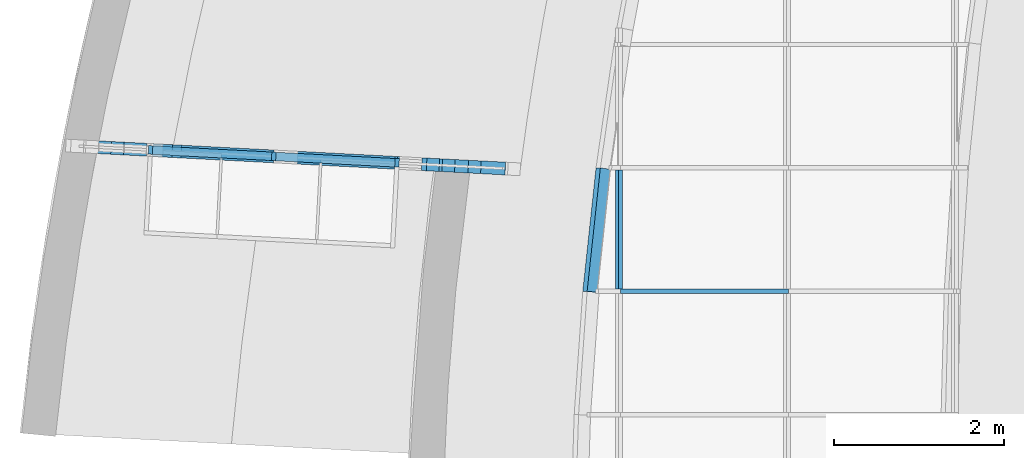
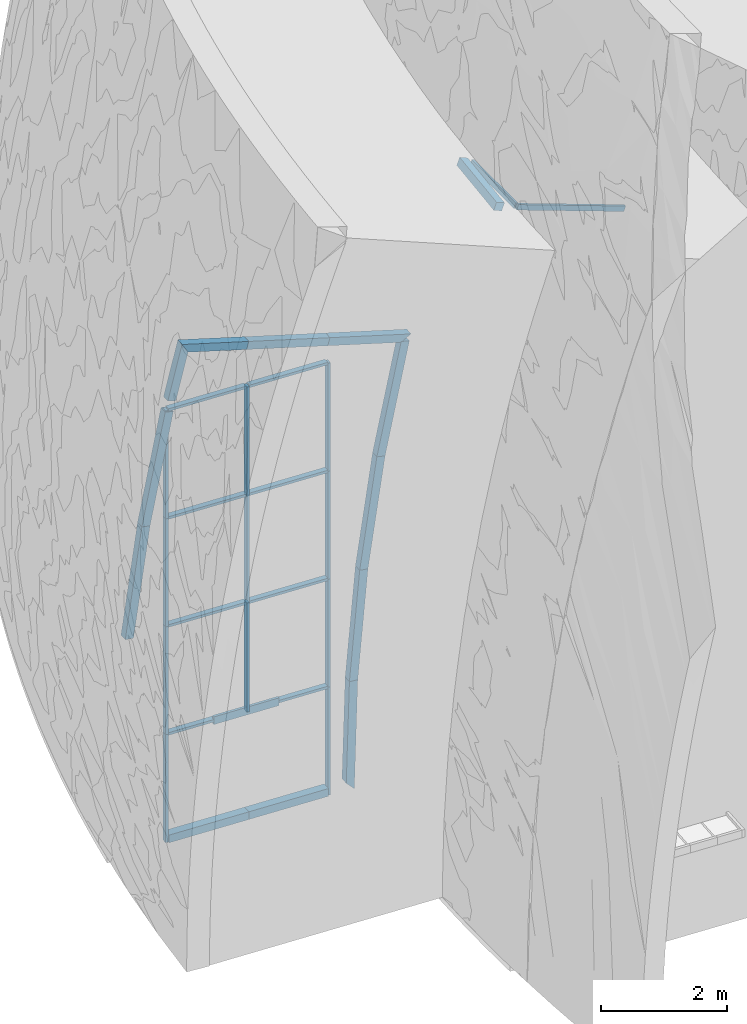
# One storey, part 9 of 82: 38 members, 3 elements without a shape of their own.
"""IFC2X3 building model written with IfcOpenShell, lengths in millimetres."""

from ifc_helpers import new_model, entity, si_unit, converted_unit, derived_unit, direction, frame, frame_2d, origin, origin_2d_with_axis, place, context, subcontext, project, spatial, rectangle, extrude, clip, halfspace, source, transform, mapped, material, type_object, type_shapes, element, aggregate, save


model = new_model("IFC2X3")

# Units and contexts
model_context = context("Model", 3, precision=0.01, world=origin(), true_north=direction((6.12303176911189e-17, 1.0)))
body_context = subcontext(model_context, "Body", "Model", "MODEL_VIEW")
ifc_project = project(units=[si_unit("LENGTHUNIT", "METRE", prefix="MILLI"), si_unit("AREAUNIT", "SQUARE_METRE"), si_unit("VOLUMEUNIT", "CUBIC_METRE"), converted_unit("PLANEANGLEUNIT", "DEGREE", entity("IfcRatioMeasure", 0.0174532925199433), si_unit("PLANEANGLEUNIT", "RADIAN"), dimensions=[0, 0, 0, 0, 0, 0, 0]), si_unit("MASSUNIT", "GRAM", prefix="KILO"), derived_unit("MASSDENSITYUNIT", [(si_unit("MASSUNIT", "GRAM", prefix="KILO"), 1), (si_unit("LENGTHUNIT", "METRE"), -3)]), si_unit("TIMEUNIT", "SECOND"), si_unit("FREQUENCYUNIT", "HERTZ"), si_unit("THERMODYNAMICTEMPERATUREUNIT", "DEGREE_CELSIUS"), derived_unit("THERMALTRANSMITTANCEUNIT", [(si_unit("MASSUNIT", "GRAM", prefix="KILO"), 1), (si_unit("THERMODYNAMICTEMPERATUREUNIT", "KELVIN"), -1), (si_unit("TIMEUNIT", "SECOND"), -3)]), derived_unit("VOLUMETRICFLOWRATEUNIT", [(si_unit("LENGTHUNIT", "METRE"), 3), (si_unit("TIMEUNIT", "SECOND"), -1)]), si_unit("ELECTRICCURRENTUNIT", "AMPERE"), si_unit("ELECTRICVOLTAGEUNIT", "VOLT"), si_unit("POWERUNIT", "WATT"), si_unit("FORCEUNIT", "NEWTON", prefix="KILO"), si_unit("ILLUMINANCEUNIT", "LUX"), si_unit("LUMINOUSFLUXUNIT", "LUMEN"), si_unit("LUMINOUSINTENSITYUNIT", "CANDELA"), derived_unit("USERDEFINED", [(si_unit("MASSUNIT", "GRAM", prefix="KILO"), -1), (si_unit("LENGTHUNIT", "METRE"), -2), (si_unit("TIMEUNIT", "SECOND"), 3), (si_unit("LUMINOUSFLUXUNIT", "LUMEN"), 1)]), derived_unit("LINEARVELOCITYUNIT", [(si_unit("LENGTHUNIT", "METRE"), 1), (si_unit("TIMEUNIT", "SECOND"), -1)]), si_unit("PRESSUREUNIT", "PASCAL"), derived_unit("USERDEFINED", [(si_unit("LENGTHUNIT", "METRE"), -2), (si_unit("MASSUNIT", "GRAM", prefix="KILO"), 1), (si_unit("TIMEUNIT", "SECOND"), -2)])], contexts=[model_context])

# Site, building, storey
site_placement = place(None, origin())
site = spatial("IfcSite", under=ifc_project, at=site_placement, Name="表面", CompositionType="ELEMENT")
building_placement = place(site_placement, origin())
building = spatial("IfcBuilding", under=site, at=building_placement, CompositionType="ELEMENT")
storey_placement = place(building_placement, origin())
storey = spatial("IfcBuildingStorey", under=building, at=storey_placement, Name="1F", CompositionType="ELEMENT", Elevation=0.0)

# Curtain wall, members
curtain_wall_type_1 = type_object("IfcCurtainWallType", Name="幕墙系统:1450 x 2100mm", PredefinedType="NOTDEFINED")
curtain_wall_1_placement = place(storey_placement, origin())
curtain_wall_1 = element("IfcCurtainWall", 1, at=curtain_wall_1_placement, inside=storey, type_object=curtain_wall_type_1, Name="幕墙系统:1450 x 2100mm", ObjectType="幕墙系统:1450 x 2100mm")
ifc_material_1 = material(Name="木质 - 木材")
member_type_1 = type_object("IfcMemberType", Name="200 x 150mm", PredefinedType="MEMBER")
shared_shape_1 = source(origin(), body_context, "Body", "Clipping", [
    clip(extrude(rectangle(XDim=150.0, YDim=150.0, at=origin_2d_with_axis()), frame((-75.0, 0.0, -1501.012738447), z_axis=(0.0, 0.0, 1.0), x_axis=(0.0, -1.0, 0.0)), (0.0, 0.0, 1.0), 1501.012738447), halfspace(frame((0.0, -304.8, 0.0), z_axis=(-0.697609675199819, 0.0, 0.716478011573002), x_axis=(-0.716478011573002, 0.0, -0.697609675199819)), False)),
])
type_shapes(member_type_1, [shared_shape_1])
placement_1 = place(building_placement, frame((0.0, 0.0, 6000.0)))
member_1_placement = place(placement_1, frame((-39888.9335743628, -14514.5203853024, 2524.03431529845), z_axis=(0.964690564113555, -0.0505572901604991, -0.258488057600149), x_axis=(0.258133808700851, -0.0135282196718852, 0.966014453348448)))
member_1 = element("IfcMember", 2, at=member_1_placement, type_object=member_type_1, material=ifc_material_1, Name="矩形竖梃:200 x 150mm", ObjectType="200 x 150mm", context=body_context, shape_type="MappedRepresentation", body=[
    mapped(shared_shape_1, transform((0.0, 0.0, 0.0), scale=1.0)),
])
member_type_2 = type_object("IfcMemberType", Name="200 x 150mm", PredefinedType="MEMBER")
shared_shape_2 = source(origin(), body_context, "Body", "SweptSolid", [
    extrude(rectangle(XDim=150.0, YDim=150.0, at=frame_2d((7.105427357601e-15, 0.0), x_axis=(1.0, 0.0))), frame((-75.0, 0.0, -1501.01273844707), z_axis=(0.0, 0.0, 1.0), x_axis=(0.0, -1.0, 0.0)), (0.0, 0.0, 1.0), 1501.01273844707),
])
type_shapes(member_type_2, [shared_shape_2])
member_2_placement = place(placement_1, frame((-41336.9463997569, -14438.6332487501, 2912.02818249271), z_axis=(0.964690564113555, -0.0505572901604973, -0.258488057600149), x_axis=(0.258133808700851, -0.0135282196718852, 0.966014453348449)))
member_2 = element("IfcMember", 3, at=member_2_placement, type_object=member_type_2, material=ifc_material_1, Name="矩形竖梃:200 x 150mm", ObjectType="200 x 150mm", context=body_context, shape_type="MappedRepresentation", body=[
    mapped(shared_shape_2, transform((0.0, 0.0, 0.0), scale=1.0)),
])
member_type_3 = type_object("IfcMemberType", Name="200 x 150mm", PredefinedType="MEMBER")
shared_shape_3 = source(origin(), body_context, "Body", "Clipping", [
    clip(clip(extrude(rectangle(XDim=150.0, YDim=150.0, at=origin_2d_with_axis()), frame((-75.0, 0.0, -2105.21667138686), z_axis=(0.0, 0.0, 1.0), x_axis=(0.0, -1.0, 0.0)), (0.0, 0.0, 1.0), 2105.21667138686), halfspace(frame((0.0, 304.799999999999, -2100.87610263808), z_axis=(0.0289250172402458, 0.0, -0.999581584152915), x_axis=(0.999581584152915, 0.0, 0.0289250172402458)), False)), halfspace(frame((0.0, -304.8, 0.0), z_axis=(-0.6968225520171, 0.0, 0.717243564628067), x_axis=(-0.717243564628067, 0.0, -0.6968225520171)), False)),
])
type_shapes(member_type_3, [shared_shape_3])
member_3_placement = place(storey_placement, frame((-40900.3472049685, -14461.5144429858, 0.0), z_axis=(-0.0288370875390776, 0.00151128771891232, -0.999582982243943), x_axis=(0.998213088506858, -0.0523141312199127, -0.0288766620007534)))
member_3 = element("IfcMember", 4, at=member_3_placement, type_object=member_type_3, material=ifc_material_1, Name="矩形竖梃:200 x 150mm", ObjectType="200 x 150mm", context=body_context, shape_type="MappedRepresentation", body=[
    mapped(shared_shape_3, transform((0.0, 0.0, 0.0), scale=1.0)),
])
member_type_4 = type_object("IfcMemberType", Name="200 x 150mm", PredefinedType="MEMBER")
shared_shape_4 = source(origin(), body_context, "Body", "Clipping", [
    clip(clip(extrude(rectangle(XDim=150.0, YDim=150.0, at=frame_2d((-1.4210854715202e-14, 0.0), x_axis=(1.0, 0.0))), frame((-75.0, 0.0, -2112.28725987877), z_axis=(0.0, 0.0, 1.0), x_axis=(0.0, -1.0, 0.0)), (0.0, 0.0, 1.0), 2116.62782862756), halfspace(frame((0.0, 304.800000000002, -2107.92463753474), z_axis=(0.0290718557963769, 0.0, -0.999577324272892), x_axis=(0.999577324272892, 0.0, 0.0290718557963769)), False)), halfspace(frame((0.0, 304.8, 0.0), z_axis=(0.0289250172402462, 0.0, 0.999581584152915), x_axis=(0.999581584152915, 0.0, -0.0289250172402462)), False)),
])
type_shapes(member_type_4, [shared_shape_4])
member_4_placement = place(storey_placement, frame((-40839.764056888, -14464.6894712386, 2100.0), z_axis=(-0.0865113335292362, 0.00453386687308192, -0.996240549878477), x_axis=(0.994875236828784, -0.0521392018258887, -0.0866300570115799)))
member_4 = element("IfcMember", 5, at=member_4_placement, type_object=member_type_4, material=ifc_material_1, Name="矩形竖梃:200 x 150mm", ObjectType="200 x 150mm", context=body_context, shape_type="MappedRepresentation", body=[
    mapped(shared_shape_4, transform((0.0, 0.0, 0.0), scale=1.0)),
])
member_type_5 = type_object("IfcMemberType", Name="200 x 150mm", PredefinedType="MEMBER")
shared_shape_5 = source(origin(), body_context, "Body", "Clipping", [
    clip(clip(extrude(rectangle(XDim=150.0, YDim=150.0, at=origin_2d_with_axis()), frame((-75.0, 0.0, -2126.63758342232), z_axis=(0.0, 0.0, 1.0), x_axis=(0.0, -1.0, 0.0)), (0.0, 0.0, 1.0), 2131.00020576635), halfspace(frame((0.0, 304.8, -2122.23745126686), z_axis=(0.0293216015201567, 0.0, -0.99957002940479), x_axis=(0.99957002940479, 0.0, 0.0293216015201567)), False)), halfspace(frame((0.0, 304.799999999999, 0.0), z_axis=(0.0290718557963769, 0.0, 0.999577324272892), x_axis=(0.999577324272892, 0.0, -0.0290718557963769)), False)),
])
type_shapes(member_type_5, [shared_shape_5])
placement_2 = place(building_placement, frame((0.0, 0.0, 3000.0)))
member_5_placement = place(placement_2, frame((-40657.4046855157, -14474.2465209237, 1200.0), z_axis=(-0.144186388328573, 0.00755648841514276, -0.989521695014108), x_axis=(0.988165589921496, -0.0517875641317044, -0.14438426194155)))
member_5 = element("IfcMember", 6, at=member_5_placement, type_object=member_type_5, material=ifc_material_1, Name="矩形竖梃:200 x 150mm", ObjectType="200 x 150mm", context=body_context, shape_type="MappedRepresentation", body=[
    mapped(shared_shape_5, transform((0.0, 0.0, 0.0), scale=1.0)),
])
member_type_6 = type_object("IfcMemberType", Name="200 x 150mm", PredefinedType="MEMBER")
shared_shape_6 = source(origin(), body_context, "Body", "Clipping", [
    clip(clip(extrude(rectangle(XDim=150.0, YDim=150.0, at=frame_2d((0.0, 7.105427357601e-14), x_axis=(1.0, 0.0))), frame((-75.0, 0.0, -2146.6071573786), z_axis=(0.0, 0.0, 1.0), x_axis=(0.0, -1.0, 0.0)), (0.0, 0.0, 1.0), 2151.00728953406), halfspace(frame((0.0, 304.799999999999, -2144.26473231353), z_axis=(0.0156142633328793, 0.0, -0.999878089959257), x_axis=(0.999878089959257, 0.0, 0.0156142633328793)), False)), halfspace(frame((0.0, 304.799999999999, 0.0), z_axis=(0.0293216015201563, 0.0, 0.99957002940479), x_axis=(0.99957002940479, 0.0, -0.0293216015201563)), False)),
])
type_shapes(member_type_6, [shared_shape_6])
member_6_placement = place(placement_1, frame((-40351.4069322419, -14490.2831836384, 300.0), z_axis=(-0.201862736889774, 0.0105791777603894, -0.979356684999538), x_axis=(0.97801451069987, -0.0512555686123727, -0.202139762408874)))
member_6 = element("IfcMember", 7, at=member_6_placement, type_object=member_type_6, material=ifc_material_1, Name="矩形竖梃:200 x 150mm", ObjectType="200 x 150mm", context=body_context, shape_type="MappedRepresentation", body=[
    mapped(shared_shape_6, transform((0.0, 0.0, 0.0), scale=1.0)),
])
member_type_7 = type_object("IfcMemberType", Name="200 x 150mm", PredefinedType="MEMBER")
shared_shape_7 = source(origin(), body_context, "Body", "Clipping", [
    clip(clip(extrude(rectangle(XDim=150.0, YDim=150.0, at=origin_2d_with_axis()), frame((-75.0, 0.0, -1054.0497524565), z_axis=(0.0, 0.0, 1.0), x_axis=(0.0, -1.0, 0.0)), (0.0, 0.0, 1.0), 1054.0497524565), halfspace(frame((0.0, -304.800000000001, -1054.0497524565), z_axis=(-0.00835370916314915, 0.0, -0.999965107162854), x_axis=(-0.999965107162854, 0.0, 0.00835370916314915)), False)), halfspace(frame((0.0, -304.8, 0.0), z_axis=(-0.713002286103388, 0.0, 0.701161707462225), x_axis=(-0.701161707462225, 0.0, -0.713002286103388)), False)),
])
type_shapes(member_type_7, [shared_shape_7])
member_7_placement = place(placement_1, frame((-43977.9506808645, -14300.2240793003, 3619.68314682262), z_axis=(0.241944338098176, -0.0126797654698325, 0.970207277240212), x_axis=(-0.968877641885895, 0.0507767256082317, 0.242276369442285)))
member_7 = element("IfcMember", 8, at=member_7_placement, type_object=member_type_7, material=ifc_material_1, Name="矩形竖梃:200 x 150mm", ObjectType="200 x 150mm", context=body_context, shape_type="MappedRepresentation", body=[
    mapped(shared_shape_7, transform((0.0, 0.0, 0.0), scale=1.0)),
])
member_type_8 = type_object("IfcMemberType", Name="200 x 150mm", PredefinedType="MEMBER")
shared_shape_8 = source(origin(), body_context, "Body", "Clipping", [
    clip(clip(extrude(rectangle(XDim=150.0, YDim=150.0, at=origin_2d_with_axis()), frame((-75.0, 0.0, -2120.79330024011), z_axis=(0.0, 0.0, 1.0), x_axis=(0.0, -1.0, 0.0)), (0.0, 0.0, 1.0), 2120.79330024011), halfspace(frame((0.0, -304.799999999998, -2120.79330024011), z_axis=(-0.0281141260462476, 0.0, -0.999604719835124), x_axis=(-0.999604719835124, 0.0, 0.0281141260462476)), False)), halfspace(frame((0.0, -304.8, 0.0), z_axis=(-0.0283397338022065, 0.0, 0.99959834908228), x_axis=(-0.99959834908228, 0.0, -0.0283397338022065)), False)),
])
type_shapes(member_type_8, [shared_shape_8])
member_8_placement = place(placement_2, frame((-44696.8288149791, -14262.5492727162, 3300.0), z_axis=(0.139496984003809, -0.00731072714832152, 0.990195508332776), x_axis=(-0.988838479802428, 0.051822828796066, 0.139688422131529)))
member_8 = element("IfcMember", 9, at=member_8_placement, type_object=member_type_8, material=ifc_material_1, Name="矩形竖梃:200 x 150mm", ObjectType="200 x 150mm", context=body_context, shape_type="MappedRepresentation", body=[
    mapped(shared_shape_8, transform((0.0, 0.0, 0.0), scale=1.0)),
])
member_type_9 = type_object("IfcMemberType", Name="200 x 150mm", PredefinedType="MEMBER")
shared_shape_9 = source(origin(), body_context, "Body", "Clipping", [
    clip(clip(extrude(rectangle(XDim=150.0, YDim=150.0, at=origin_2d_with_axis()), frame((-75.0, 0.0, -2141.34794980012), z_axis=(0.0, 0.0, 1.0), x_axis=(0.0, -1.0, 0.0)), (0.0, 0.0, 1.0), 2141.34794980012), halfspace(frame((0.0, -304.8, -2141.34794980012), z_axis=(-0.0283397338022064, 0.0, -0.99959834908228), x_axis=(-0.99959834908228, 0.0, 0.0283397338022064)), False)), halfspace(frame((0.0, -304.8, 0.0), z_axis=(-0.0155843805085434, 0.0, 0.99987855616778), x_axis=(-0.99987855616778, 0.0, -0.0155843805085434)), False)),
])
type_shapes(member_type_9, [shared_shape_9])
member_9_placement = place(placement_1, frame((-44278.6294705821, -14284.4661716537, 2400.0), z_axis=(0.195297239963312, -0.0102350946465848, 0.980690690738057), x_axis=(-0.979346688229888, 0.0513253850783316, 0.195565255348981)))
member_9 = element("IfcMember", 10, at=member_9_placement, type_object=member_type_9, material=ifc_material_1, Name="矩形竖梃:200 x 150mm", ObjectType="200 x 150mm", context=body_context, shape_type="MappedRepresentation", body=[
    mapped(shared_shape_9, transform((0.0, 0.0, 0.0), scale=1.0)),
])
ifc_material_2 = material(Name="金属 - 铝")
member_type_10 = type_object("IfcMemberType", Name="50 x 100mm", PredefinedType="MEMBER")
shared_shape_10 = source(origin(), body_context, "Body", "SweptSolid", [
    extrude(rectangle(XDim=100.0, YDim=50.0, at=origin_2d_with_axis()), frame((0.0, 0.0, -1400.0), z_axis=(0.0, 0.0, 1.0), x_axis=(0.0, -1.0, 0.0)), (0.0, 0.0, 1.0), 1400.0),
])
type_shapes(member_type_10, [shared_shape_10])
member_10_placement = place(storey_placement, frame((-41361.9121381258, -14437.3248498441, 2100.0), z_axis=(0.998629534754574, -0.052335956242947, 0.0), x_axis=(0.0, 0.0, 1.0)))
member_10 = element("IfcMember", 11, at=member_10_placement, type_object=member_type_10, material=ifc_material_2, Name="矩形竖梃:50 x 100mm", ObjectType="50 x 100mm", context=body_context, shape_type="MappedRepresentation", body=[
    mapped(shared_shape_10, transform((0.0, 0.0, 0.0), scale=1.0)),
])
member_11_placement = place(placement_1, frame((-41361.9121381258, -14437.3248498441, 300.0), z_axis=(0.998629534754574, -0.052335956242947, 0.0), x_axis=(0.0, 0.0, 1.0)))
member_11 = element("IfcMember", 12, at=member_11_placement, type_object=member_type_10, material=ifc_material_2, Name="矩形竖梃:50 x 100mm", ObjectType="50 x 100mm", context=body_context, shape_type="MappedRepresentation", body=[
    mapped(shared_shape_10, transform((0.0, 0.0, 0.0), scale=1.0)),
])
member_12_placement = place(placement_1, frame((-41361.9121381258, -14437.3248498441, 2400.0), z_axis=(0.998629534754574, -0.0523359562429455, 0.0), x_axis=(0.0, 0.0, 1.0)))
member_12 = element("IfcMember", 13, at=member_12_placement, type_object=member_type_10, material=ifc_material_2, Name="矩形竖梃:50 x 100mm", ObjectType="50 x 100mm", context=body_context, shape_type="MappedRepresentation", body=[
    mapped(shared_shape_10, transform((0.0, 0.0, 0.0), scale=1.0)),
])
member_13_placement = place(storey_placement, frame((-42809.9249635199, -14361.4377132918, 2100.0), z_axis=(0.998629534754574, -0.0523359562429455, 0.0), x_axis=(0.0, 0.0, 1.0)))
member_13 = element("IfcMember", 14, at=member_13_placement, type_object=member_type_10, material=ifc_material_2, Name="矩形竖梃:50 x 100mm", ObjectType="50 x 100mm", context=body_context, shape_type="MappedRepresentation", body=[
    mapped(shared_shape_10, transform((0.0, 0.0, 0.0), scale=1.0)),
])
member_14_placement = place(placement_1, frame((-42809.9249635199, -14361.4377132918, 300.0), z_axis=(0.998629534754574, -0.0523359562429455, 0.0), x_axis=(0.0, 0.0, 1.0)))
member_14 = element("IfcMember", 15, at=member_14_placement, type_object=member_type_10, material=ifc_material_2, Name="矩形竖梃:50 x 100mm", ObjectType="50 x 100mm", context=body_context, shape_type="MappedRepresentation", body=[
    mapped(shared_shape_10, transform((0.0, 0.0, 0.0), scale=1.0)),
])
member_15_placement = place(placement_1, frame((-42809.9249635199, -14361.4377132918, 2400.0), z_axis=(0.998629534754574, -0.052335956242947, 0.0), x_axis=(0.0, 0.0, 1.0)))
member_15 = element("IfcMember", 16, at=member_15_placement, type_object=member_type_10, material=ifc_material_2, Name="矩形竖梃:50 x 100mm", ObjectType="50 x 100mm", context=body_context, shape_type="MappedRepresentation", body=[
    mapped(shared_shape_10, transform((0.0, 0.0, 0.0), scale=1.0)),
])
member_16_placement = place(placement_2, frame((-42809.9249635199, -14361.4377132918, 1200.0), z_axis=(0.998629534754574, -0.0523359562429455, 0.0), x_axis=(0.0, 0.0, 1.0)))
member_16 = element("IfcMember", 17, at=member_16_placement, type_object=member_type_10, material=ifc_material_2, Name="矩形竖梃:50 x 100mm", ObjectType="50 x 100mm", context=body_context, shape_type="MappedRepresentation", body=[
    mapped(shared_shape_10, transform((0.0, 0.0, 0.0), scale=1.0)),
])
member_17_placement = place(placement_2, frame((-41361.9121381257, -14437.3248498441, 1200.0), z_axis=(0.998629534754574, -0.052335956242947, 0.0), x_axis=(0.0, 0.0, 1.0)))
member_17 = element("IfcMember", 18, at=member_17_placement, type_object=member_type_10, material=ifc_material_2, Name="矩形竖梃:50 x 100mm", ObjectType="50 x 100mm", context=body_context, shape_type="MappedRepresentation", body=[
    mapped(shared_shape_10, transform((0.0, 0.0, 0.0), scale=1.0)),
])

# Curtain wall, member
curtain_wall_2_placement = place(storey_placement, origin())
curtain_wall_2 = element("IfcCurtainWall", 19, at=curtain_wall_2_placement, inside=storey, type_object=curtain_wall_type_1, Name="幕墙系统:1450 x 2100mm", ObjectType="幕墙系统:1450 x 2100mm")
placement_3 = place(building_placement, frame((0.0, 0.0, 9000.0)))
member_18_placement = place(placement_3, frame((-38729.9799238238, -14521.8767198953, 2416.82813591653), z_axis=(0.0, 1.0, 0.0), x_axis=(-0.93969262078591, 0.0, 0.342020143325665)))
member_18 = element("IfcMember", 20, at=member_18_placement, type_object=member_type_10, material=ifc_material_2, Name="矩形竖梃:50 x 100mm", ObjectType="50 x 100mm", context=body_context, shape_type="MappedRepresentation", body=[
    mapped(shared_shape_10, transform((0.0, 0.0, 0.0), scale=1.0)),
])

# Member
member_type_11 = type_object("IfcMemberType", Name="50 x 100mm", PredefinedType="MEMBER")
shared_shape_11 = source(origin(), body_context, "Body", "SweptSolid", [
    extrude(rectangle(XDim=100.0, YDim=50.0, at=origin_2d_with_axis()), frame((0.0, 0.0, -2100.0), z_axis=(0.0, 0.0, 1.0), x_axis=(0.0, -1.0, 0.0)), (0.0, 0.0, 1.0), 2100.0),
])
type_shapes(member_type_11, [shared_shape_11])
member_19_placement = place(storey_placement, frame((-41336.9463997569, -14438.6332487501, 2100.0), z_axis=(0.0, 0.0, 1.0), x_axis=(-0.998629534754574, 0.0523359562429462, 0.0)))
member_19 = element("IfcMember", 21, at=member_19_placement, type_object=member_type_11, material=ifc_material_2, Name="矩形竖梃:50 x 100mm", ObjectType="50 x 100mm", context=body_context, shape_type="MappedRepresentation", body=[
    mapped(shared_shape_11, transform((0.0, 0.0, 0.0), scale=1.0)),
])

member_20_placement = place(storey_placement, frame((-44232.9720505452, -14286.8589756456, 2100.0), z_axis=(0.0, 0.0, 1.0), x_axis=(-0.998629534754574, 0.0523359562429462, 0.0)))
member_20 = element("IfcMember", 22, at=member_20_placement, type_object=member_type_11, material=ifc_material_2, Name="矩形竖梃:50 x 100mm", ObjectType="50 x 100mm", context=body_context, shape_type="MappedRepresentation", body=[
    mapped(shared_shape_11, transform((0.0, 0.0, 0.0), scale=1.0)),
])

member_type_12 = type_object("IfcMemberType", Name="50 x 100mm", PredefinedType="MEMBER")
shared_shape_12 = source(origin(), body_context, "Body", "SweptSolid", [
    extrude(rectangle(XDim=100.0, YDim=50.0, at=origin_2d_with_axis()), frame((0.0, 0.0, -2100.0), z_axis=(0.0, 0.0, 1.0), x_axis=(0.0, -1.0, 0.0)), (0.0, 0.0, 1.0), 2100.0),
])
type_shapes(member_type_12, [shared_shape_12])
member_21_placement = place(storey_placement, frame((-41336.9463997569, -14438.6332487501, 4200.0), z_axis=(0.0, 0.0, 1.0), x_axis=(-0.998629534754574, 0.0523359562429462, 0.0)))
member_21 = element("IfcMember", 23, at=member_21_placement, type_object=member_type_12, material=ifc_material_2, Name="矩形竖梃:50 x 100mm", ObjectType="50 x 100mm", context=body_context, shape_type="MappedRepresentation", body=[
    mapped(shared_shape_12, transform((0.0, 0.0, 0.0), scale=1.0)),
])

member_22_placement = place(placement_2, frame((-41336.9463997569, -14438.6332487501, 3300.0), z_axis=(0.0, 0.0, 1.0), x_axis=(-0.998629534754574, 0.0523359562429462, 0.0)))
member_22 = element("IfcMember", 24, at=member_22_placement, type_object=member_type_12, material=ifc_material_2, Name="矩形竖梃:50 x 100mm", ObjectType="50 x 100mm", context=body_context, shape_type="MappedRepresentation", body=[
    mapped(shared_shape_12, transform((0.0, 0.0, 0.0), scale=1.0)),
])

member_23_placement = place(placement_1, frame((-41336.9463997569, -14438.6332487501, 2400.0), z_axis=(0.0, 0.0, 1.0), x_axis=(-0.998629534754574, 0.0523359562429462, 0.0)))
member_23 = element("IfcMember", 25, at=member_23_placement, type_object=member_type_12, material=ifc_material_2, Name="矩形竖梃:50 x 100mm", ObjectType="50 x 100mm", context=body_context, shape_type="MappedRepresentation", body=[
    mapped(shared_shape_12, transform((0.0, 0.0, 0.0), scale=1.0)),
])

member_24_placement = place(storey_placement, frame((-44232.9720505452, -14286.8589756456, 4200.0), z_axis=(0.0, 0.0, 1.0), x_axis=(-0.998629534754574, 0.0523359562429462, 0.0)))
member_24 = element("IfcMember", 26, at=member_24_placement, type_object=member_type_12, material=ifc_material_2, Name="矩形竖梃:50 x 100mm", ObjectType="50 x 100mm", context=body_context, shape_type="MappedRepresentation", body=[
    mapped(shared_shape_12, transform((0.0, 0.0, 0.0), scale=1.0)),
])

member_25_placement = place(placement_2, frame((-44232.9720505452, -14286.8589756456, 3300.0), z_axis=(0.0, 0.0, 1.0), x_axis=(-0.998629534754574, 0.0523359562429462, 0.0)))
member_25 = element("IfcMember", 27, at=member_25_placement, type_object=member_type_12, material=ifc_material_2, Name="矩形竖梃:50 x 100mm", ObjectType="50 x 100mm", context=body_context, shape_type="MappedRepresentation", body=[
    mapped(shared_shape_12, transform((0.0, 0.0, 0.0), scale=1.0)),
])

member_26_placement = place(placement_1, frame((-44232.9720505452, -14286.8589756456, 2400.0), z_axis=(0.0, 0.0, 1.0), x_axis=(-0.998629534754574, 0.0523359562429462, 0.0)))
member_26 = element("IfcMember", 28, at=member_26_placement, type_object=member_type_12, material=ifc_material_2, Name="矩形竖梃:50 x 100mm", ObjectType="50 x 100mm", context=body_context, shape_type="MappedRepresentation", body=[
    mapped(shared_shape_12, transform((0.0, 0.0, 0.0), scale=1.0)),
])

member_27_placement = place(placement_1, frame((-42784.959225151, -14362.7461121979, 2400.0), z_axis=(0.0, 0.0, 1.0), x_axis=(-0.998629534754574, 0.0523359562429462, 0.0)))
member_27 = element("IfcMember", 29, at=member_27_placement, type_object=member_type_12, material=ifc_material_2, Name="矩形竖梃:50 x 100mm", ObjectType="50 x 100mm", context=body_context, shape_type="MappedRepresentation", body=[
    mapped(shared_shape_12, transform((0.0, 0.0, 0.0), scale=1.0)),
])

member_28_placement = place(placement_2, frame((-42784.959225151, -14362.7461121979, 3300.0), z_axis=(0.0, 0.0, 1.0), x_axis=(-0.998629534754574, 0.0523359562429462, 0.0)))
member_28 = element("IfcMember", 30, at=member_28_placement, type_object=member_type_12, material=ifc_material_2, Name="矩形竖梃:50 x 100mm", ObjectType="50 x 100mm", context=body_context, shape_type="MappedRepresentation", body=[
    mapped(shared_shape_12, transform((0.0, 0.0, 0.0), scale=1.0)),
])

member_29_placement = place(placement_3, frame((-38729.9799238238, -15946.8767198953, 2416.82813591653), z_axis=(-0.939692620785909, 0.0, 0.342020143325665), x_axis=(0.0, -1.0, 0.0)))
member_29 = element("IfcMember", 31, at=member_29_placement, type_object=member_type_12, material=ifc_material_2, Name="矩形竖梃:50 x 100mm", ObjectType="50 x 100mm", context=body_context, shape_type="MappedRepresentation", body=[
    mapped(shared_shape_12, transform((0.0, 0.0, 0.0), scale=1.0)),
])

member_type_13 = type_object("IfcMemberType", Name="200 x 150mm", PredefinedType="MEMBER")
shared_shape_13 = source(origin(), body_context, "Body", "SweptSolid", [
    extrude(rectangle(XDim=150.0, YDim=150.0, at=origin_2d_with_axis()), frame((-75.0, 0.0, -1425.0), z_axis=(0.0, 0.0, 1.0), x_axis=(0.0, -1.0, 0.0)), (0.0, 0.0, 1.0), 1425.0),
])
type_shapes(member_type_13, [shared_shape_13])
member_30_placement = place(storey_placement, frame((-44208.0063121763, -14288.1673745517, 0.0), z_axis=(-0.998629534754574, 0.052335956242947, 0.0), x_axis=(0.0, 0.0, -1.0)))
member_30 = element("IfcMember", 32, at=member_30_placement, type_object=member_type_13, material=ifc_material_1, Name="矩形竖梃:200 x 150mm", ObjectType="200 x 150mm", context=body_context, shape_type="MappedRepresentation", body=[
    mapped(shared_shape_13, transform((0.0, 0.0, 0.0), scale=1.0)),
])

member_type_14 = type_object("IfcMemberType", Name="200 x 150mm", PredefinedType="MEMBER")
shared_shape_14 = source(origin(), body_context, "Body", "Clipping", [
    clip(extrude(rectangle(XDim=150.0, YDim=150.0, at=frame_2d((0.0, 7.105427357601e-14), x_axis=(1.0, 0.0))), frame((-75.0, 0.0, -1236.65712104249), z_axis=(0.0, 0.0, 1.0), x_axis=(0.0, -1.0, 0.0)), (0.0, 0.0, 1.0), 1236.65712104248), halfspace(frame((0.0, -304.799999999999, -1236.65712104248), z_axis=(-0.713002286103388, 0.0, -0.701161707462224), x_axis=(-0.701161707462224, 0.0, 0.713002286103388)), False)),
])
type_shapes(member_type_14, [shared_shape_14])
member_31_placement = place(placement_3, frame((-42784.959225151, -14362.7461121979, 300.022049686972), z_axis=(0.964690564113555, -0.0505572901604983, -0.25848805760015), x_axis=(0.258133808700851, -0.0135282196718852, 0.966014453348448)))
member_31 = element("IfcMember", 33, at=member_31_placement, type_object=member_type_14, material=ifc_material_1, Name="矩形竖梃:200 x 150mm", ObjectType="200 x 150mm", context=body_context, shape_type="MappedRepresentation", body=[
    mapped(shared_shape_14, transform((0.0, 0.0, 0.0), scale=1.0)),
])

member_type_15 = type_object("IfcMemberType", Name="50 x 100mm", PredefinedType="MEMBER")
shared_shape_15 = source(origin(), body_context, "Body", "SweptSolid", [
    extrude(rectangle(XDim=100.0, YDim=50.0, at=origin_2d_with_axis()), frame((0.0, 0.0, -2125.0), z_axis=(0.0, 0.0, 1.0), x_axis=(0.0, -1.0, 0.0)), (0.0, 0.0, 1.0), 2125.0),
])
type_shapes(member_type_15, [shared_shape_15])
member_32_placement = place(storey_placement, frame((-42784.959225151, -14362.7461121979, 4200.0), z_axis=(0.0, 0.0, 1.0), x_axis=(-0.998629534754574, 0.0523359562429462, 0.0)))
member_32 = element("IfcMember", 34, at=member_32_placement, type_object=member_type_15, material=ifc_material_2, Name="矩形竖梃:50 x 100mm", ObjectType="50 x 100mm", context=body_context, shape_type="MappedRepresentation", body=[
    mapped(shared_shape_15, transform((0.0, 0.0, 0.0), scale=1.0)),
])

member_type_16 = type_object("IfcMemberType", Name="50 x 100mm", PredefinedType="MEMBER")
shared_shape_16 = source(origin(), body_context, "Body", "SweptSolid", [
    extrude(rectangle(XDim=100.0, YDim=50.0, at=origin_2d_with_axis()), frame((0.0, 0.0, -2125.0), z_axis=(0.0, 0.0, 1.0), x_axis=(0.0, -1.0, 0.0)), (0.0, 0.0, 1.0), 2124.99999999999),
])
type_shapes(member_type_16, [shared_shape_16])
member_33_placement = place(placement_1, frame((-42784.959225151, -14362.7461121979, 2400.0), z_axis=(0.0, 0.0, 1.0), x_axis=(-0.998629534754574, 0.0523359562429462, 0.0)))
member_33 = element("IfcMember", 35, at=member_33_placement, type_object=member_type_16, material=ifc_material_2, Name="矩形竖梃:50 x 100mm", ObjectType="50 x 100mm", context=body_context, shape_type="MappedRepresentation", body=[
    mapped(shared_shape_16, transform((0.0, 0.0, 0.0), scale=1.0)),
])

member_34_placement = place(storey_placement, frame((-42784.959225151, -14362.7461121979, 4200.0), z_axis=(0.0, 0.0, 1.0), x_axis=(-0.998629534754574, 0.0523359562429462, 0.0)))
member_34 = element("IfcMember", 36, at=member_34_placement, type_object=member_type_16, material=ifc_material_2, Name="矩形竖梃:50 x 100mm", ObjectType="50 x 100mm", context=body_context, shape_type="MappedRepresentation", body=[
    mapped(shared_shape_16, transform((0.0, 0.0, 0.0), scale=1.0)),
])

member_type_17 = type_object("IfcMemberType", Name="200 x 150mm", PredefinedType="MEMBER")
shared_shape_17 = source(origin(), body_context, "Body", "SweptSolid", [
    extrude(rectangle(XDim=150.0, YDim=150.0, at=origin_2d_with_axis()), frame((-75.0, 0.0, -1425.0), z_axis=(0.0, 0.0, 1.0), x_axis=(0.0, -1.0, 0.0)), (0.0, 0.0, 1.0), 1425.0),
])
type_shapes(member_type_17, [shared_shape_17])
member_35_placement = place(storey_placement, frame((-42784.959225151, -14362.7461121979, 0.0), z_axis=(-0.998629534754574, 0.0523359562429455, 0.0), x_axis=(0.0, 0.0, -1.0)))
member_35 = element("IfcMember", 37, at=member_35_placement, type_object=member_type_17, material=ifc_material_1, Name="矩形竖梃:200 x 150mm", ObjectType="200 x 150mm", context=body_context, shape_type="MappedRepresentation", body=[
    mapped(shared_shape_17, transform((0.0, 0.0, 0.0), scale=1.0)),
])

member_type_18 = type_object("IfcMemberType", Name="200 x 150mm", PredefinedType="MEMBER")
shared_shape_18 = source(origin(), body_context, "Body", "Clipping", [
    clip(extrude(rectangle(XDim=150.0, YDim=150.0, at=frame_2d((-2.1316282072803e-14, 7.105427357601e-14), x_axis=(1.0, 0.0))), frame((-75.0, 0.0, -1236.65712104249), z_axis=(0.0, 0.0, 1.0), x_axis=(0.0, -1.0, 0.0)), (0.0, 0.0, 1.0), 1236.65712104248), halfspace(frame((0.0, -304.799999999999, -1236.65712104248), z_axis=(-0.713002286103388, 0.0, -0.701161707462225), x_axis=(-0.701161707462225, 0.0, 0.713002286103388)), False)),
])
type_shapes(member_type_18, [shared_shape_18])
member_36_placement = place(placement_3, frame((-42784.959225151, -14362.7461121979, 300.022049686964), z_axis=(0.964690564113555, -0.0505572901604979, -0.258488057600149), x_axis=(0.25813380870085, -0.0135282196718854, 0.966014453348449)))
member_36 = element("IfcMember", 38, at=member_36_placement, type_object=member_type_18, material=ifc_material_1, Name="矩形竖梃:200 x 150mm", ObjectType="200 x 150mm", context=body_context, shape_type="MappedRepresentation", body=[
    mapped(shared_shape_18, transform((0.0, 0.0, 0.0), scale=1.0)),
])

aggregate(curtain_wall_1, [member_1, member_2, member_3, member_4, member_5, member_6, member_7, member_8, member_9, member_10, member_11, member_12, member_19, member_21, member_22, member_23, member_30, member_31, member_13, member_14, member_15, member_20, member_32, member_24, member_25, member_33, member_26, member_35, member_36, member_34, member_27, member_28, member_16, member_17])

member_type_19 = type_object("IfcMemberType", Name="200 x 150mm", PredefinedType="MEMBER")
shared_shape_19 = source(origin(), body_context, "Body", "Clipping", [
    clip(clip(extrude(rectangle(XDim=150.0, YDim=150.0, at=frame_2d((0.0, 1.4210854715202e-14), x_axis=(1.0, 0.0))), frame((-75.0, 0.0, -1459.43539566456), z_axis=(0.0, 0.0, 1.0), x_axis=(0.0, -1.0, 0.0)), (0.0, 0.0, 1.0), 1459.43539566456), halfspace(frame((0.0, -304.8, -1459.43539566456), z_axis=(-0.0199882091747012, 0.0, -0.999800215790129), x_axis=(-0.999800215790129, 0.0, 0.0199882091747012)), False)), halfspace(frame((0.0, -304.8, 0.0), z_axis=(-0.0200800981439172, 0.0, 0.999798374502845), x_axis=(-0.999798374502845, 0.0, -0.0200800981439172)), False)),
])
type_shapes(member_type_19, [shared_shape_19])
member_37_placement = place(placement_3, frame((-38973.4690917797, -14496.8767198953, 2505.45094541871), z_axis=(0.10668057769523, 0.993534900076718, -0.0388285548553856), x_axis=(-0.933617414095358, 0.113527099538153, 0.33980894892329)))
member_37 = element("IfcMember", 39, at=member_37_placement, type_object=member_type_19, material=ifc_material_1, Name="矩形竖梃:200 x 150mm", ObjectType="200 x 150mm", context=body_context, shape_type="MappedRepresentation", body=[
    mapped(shared_shape_19, transform((0.0, 0.0, 0.0), scale=1.0)),
])

aggregate(curtain_wall_2, [member_37, member_18, member_29])

# Roof, member
curtain_wall_type_2 = type_object("IfcCurtainWallType", Name="玻璃斜窗:玻璃斜窗 2", PredefinedType="NOTDEFINED")
roof_placement = place(storey_placement, origin())
roof = element("IfcRoof", 40, at=roof_placement, inside=storey, type_object=curtain_wall_type_2, Name="玻璃斜窗:玻璃斜窗 2", ObjectType="玻璃斜窗:玻璃斜窗 2", ShapeType="NOTDEFINED")
member_type_20 = type_object("IfcMemberType", Name="50 x 150mm", PredefinedType="MEMBER")
shared_shape_20 = source(origin(), body_context, "Body", "SweptSolid", [
    extrude(rectangle(XDim=150.0, YDim=50.0, at=origin_2d_with_axis()), frame((-25.0, 0.0, -1170.0), z_axis=(0.0, 0.0, 1.0), x_axis=(0.0, -1.0, 0.0)), (0.0, 0.0, 1.0), 1169.99999999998),
])
type_shapes(member_type_20, [shared_shape_20])
member_38_placement = place(storey_placement, frame((-43399.1163890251, -14330.5594991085, 2100.0), z_axis=(-0.998629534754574, 0.0523359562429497, 0.0), x_axis=(0.0523359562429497, 0.998629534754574, 0.0)))
member_38 = element("IfcMember", 41, at=member_38_placement, type_object=member_type_20, material=ifc_material_2, Name="矩形竖梃:50 x 150mm", ObjectType="50 x 150mm", context=body_context, shape_type="MappedRepresentation", body=[
    mapped(shared_shape_20, transform((0.0, 0.0, 0.0), scale=1.0)),
])
aggregate(roof, [member_38])

save(model, "model.ifc")
